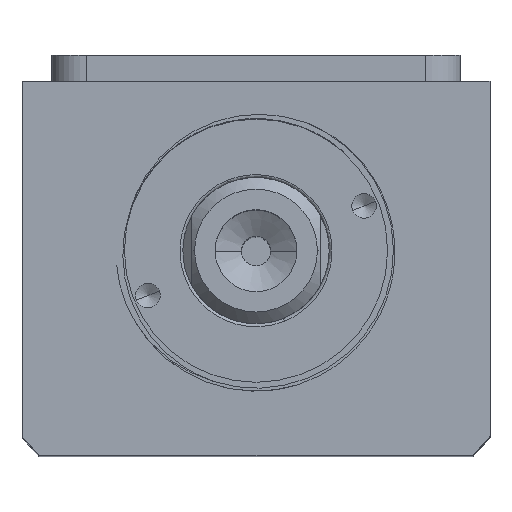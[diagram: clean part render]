
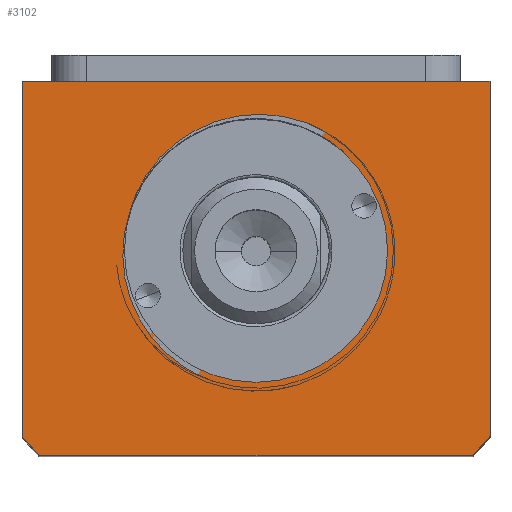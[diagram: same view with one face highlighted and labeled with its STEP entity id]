
A CAD part, top view. The second image highlights one B-rep face of the part: STEP entity #3102.
In plain terms, the highlighted planar face has unit normal (0, 0, 1).
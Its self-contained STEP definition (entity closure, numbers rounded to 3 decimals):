
#47 = EDGE_CURVE ( 'NONE', #1334, #5172, #236, .T. ) ;
#224 = ORIENTED_EDGE ( 'NONE', *, *, #47, .F. ) ;
#236 = CIRCLE ( 'NONE', #9838, 22.5 ) ;
#279 = LINE ( 'NONE', #5220, #8502 ) ;
#295 = EDGE_LOOP ( 'NONE', ( #591, #9313, #5688, #426, #6576, #4225 ) ) ;
#426 = ORIENTED_EDGE ( 'NONE', *, *, #1810, .T. ) ;
#591 = ORIENTED_EDGE ( 'NONE', *, *, #7832, .T. ) ;
#594 = DIRECTION ( 'NONE',  ( 1., 0., 0. ) ) ;
#657 = FACE_BOUND ( 'NONE', #3827, .T. ) ;
#662 = AXIS2_PLACEMENT_3D ( 'NONE', #7191, #4032, #9596 ) ;
#799 = CARTESIAN_POINT ( 'NONE',  ( -40., 32., 150. ) ) ;
#1013 = CARTESIAN_POINT ( 'NONE',  ( 40., 32., 150. ) ) ;
#1334 = VERTEX_POINT ( 'NONE', #2932 ) ;
#1338 = CARTESIAN_POINT ( 'NONE',  ( 0., 3., 150. ) ) ;
#1465 = EDGE_CURVE ( 'NONE', #2412, #8654, #5389, .T. ) ;
#1810 = EDGE_CURVE ( 'NONE', #2951, #4547, #9511, .T. ) ;
#2112 = EDGE_CURVE ( 'NONE', #4547, #9164, #279, .T. ) ;
#2113 = DIRECTION ( 'NONE',  ( 0., 0., 1. ) ) ;
#2158 = LINE ( 'NONE', #799, #6381 ) ;
#2169 = EDGE_CURVE ( 'NONE', #9164, #8570, #2158, .T. ) ;
#2214 = CARTESIAN_POINT ( 'NONE',  ( -40., 32., 150. ) ) ;
#2412 = VERTEX_POINT ( 'NONE', #10207 ) ;
#2889 = CARTESIAN_POINT ( 'NONE',  ( 40., -28.639, 150. ) ) ;
#2932 = CARTESIAN_POINT ( 'NONE',  ( 22.5, 3., 150. ) ) ;
#2951 = VERTEX_POINT ( 'NONE', #5441 ) ;
#3096 = EDGE_CURVE ( 'NONE', #5172, #1334, #6759, .T. ) ;
#3102 = ADVANCED_FACE ( 'NONE', ( #657, #4669 ), #5511, .T. ) ;
#3212 = DIRECTION ( 'NONE',  ( 1., 0., 0. ) ) ;
#3228 = DIRECTION ( 'NONE',  ( 0., 0., 1. ) ) ;
#3504 = CARTESIAN_POINT ( 'NONE',  ( -40., 32., 150. ) ) ;
#3827 = EDGE_LOOP ( 'NONE', ( #224, #8572 ) ) ;
#4032 = DIRECTION ( 'NONE',  ( 0., 0., 1. ) ) ;
#4038 = DIRECTION ( 'NONE',  ( 1., 0., 0. ) ) ;
#4120 = CARTESIAN_POINT ( 'NONE',  ( -22.5, 3., 150. ) ) ;
#4225 = ORIENTED_EDGE ( 'NONE', *, *, #2169, .T. ) ;
#4306 = DIRECTION ( 'NONE',  ( 0., -1., 0. ) ) ;
#4383 = LINE ( 'NONE', #3504, #8126 ) ;
#4547 = VERTEX_POINT ( 'NONE', #2889 ) ;
#4669 = FACE_OUTER_BOUND ( 'NONE', #295, .T. ) ;
#4826 = CARTESIAN_POINT ( 'NONE',  ( 0., 3., 150. ) ) ;
#4907 = VECTOR ( 'NONE', #4038, 1000. ) ;
#5172 = VERTEX_POINT ( 'NONE', #4120 ) ;
#5220 = CARTESIAN_POINT ( 'NONE',  ( 40., 32., 150. ) ) ;
#5389 = CIRCLE ( 'NONE', #5485, 51. ) ;
#5441 = CARTESIAN_POINT ( 'NONE',  ( 37.094, -32., 150. ) ) ;
#5485 = AXIS2_PLACEMENT_3D ( 'NONE', #1338, #2113, #594 ) ;
#5511 = PLANE ( 'NONE',  #662 ) ;
#5672 = DIRECTION ( 'NONE',  ( 0., 1., 0. ) ) ;
#5688 = ORIENTED_EDGE ( 'NONE', *, *, #7035, .T. ) ;
#6200 = CARTESIAN_POINT ( 'NONE',  ( -37.094, -32., 150. ) ) ;
#6357 = AXIS2_PLACEMENT_3D ( 'NONE', #10023, #7715, #8528 ) ;
#6381 = VECTOR ( 'NONE', #7552, 1000. ) ;
#6576 = ORIENTED_EDGE ( 'NONE', *, *, #2112, .T. ) ;
#6759 = CIRCLE ( 'NONE', #9409, 22.5 ) ;
#7035 = EDGE_CURVE ( 'NONE', #8654, #2951, #7261, .T. ) ;
#7191 = CARTESIAN_POINT ( 'NONE',  ( 0., 0., 150. ) ) ;
#7261 = LINE ( 'NONE', #9599, #4907 ) ;
#7552 = DIRECTION ( 'NONE',  ( -1., 0., 0. ) ) ;
#7715 = DIRECTION ( 'NONE',  ( 0., 0., 1. ) ) ;
#7832 = EDGE_CURVE ( 'NONE', #8570, #2412, #4383, .T. ) ;
#7987 = CARTESIAN_POINT ( 'NONE',  ( 0., 3., 150. ) ) ;
#8126 = VECTOR ( 'NONE', #4306, 1000. ) ;
#8502 = VECTOR ( 'NONE', #5672, 1000. ) ;
#8528 = DIRECTION ( 'NONE',  ( 1., 0., 0. ) ) ;
#8570 = VERTEX_POINT ( 'NONE', #2214 ) ;
#8572 = ORIENTED_EDGE ( 'NONE', *, *, #3096, .F. ) ;
#8654 = VERTEX_POINT ( 'NONE', #6200 ) ;
#8774 = DIRECTION ( 'NONE',  ( 0., 0., 1. ) ) ;
#8790 = DIRECTION ( 'NONE',  ( 1., 0., 0. ) ) ;
#9164 = VERTEX_POINT ( 'NONE', #1013 ) ;
#9313 = ORIENTED_EDGE ( 'NONE', *, *, #1465, .T. ) ;
#9409 = AXIS2_PLACEMENT_3D ( 'NONE', #7987, #3228, #8790 ) ;
#9511 = CIRCLE ( 'NONE', #6357, 51. ) ;
#9596 = DIRECTION ( 'NONE',  ( 1., 0., 0. ) ) ;
#9599 = CARTESIAN_POINT ( 'NONE',  ( -40., -32., 150. ) ) ;
#9838 = AXIS2_PLACEMENT_3D ( 'NONE', #4826, #8774, #3212 ) ;
#10023 = CARTESIAN_POINT ( 'NONE',  ( 0., 3., 150. ) ) ;
#10207 = CARTESIAN_POINT ( 'NONE',  ( -40., -28.639, 150. ) ) ;
